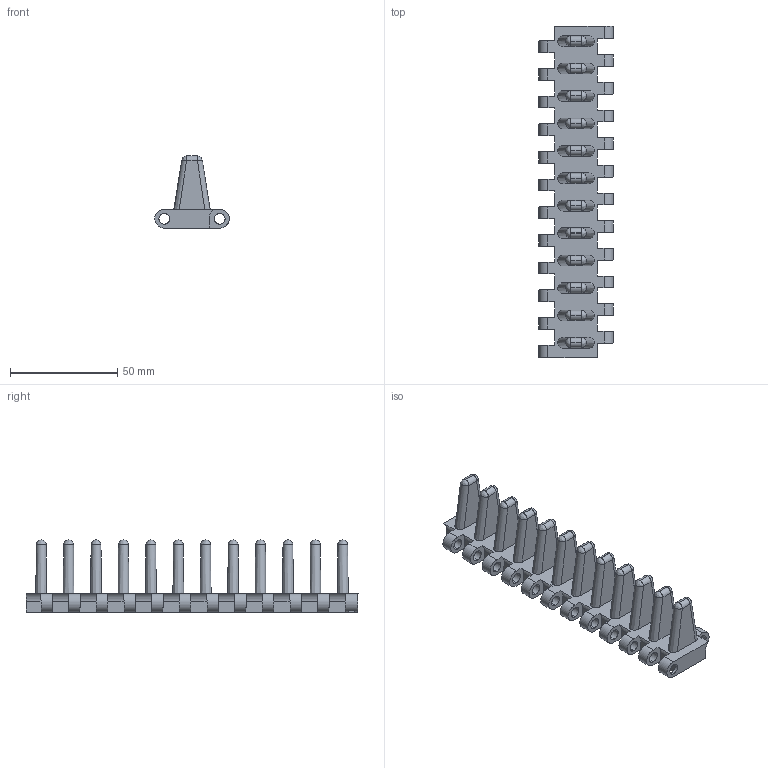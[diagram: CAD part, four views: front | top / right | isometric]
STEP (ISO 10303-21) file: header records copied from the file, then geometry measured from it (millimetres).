
FILE_DESCRIPTION (( 'STEP AP214' ), '1' );
FILE_NAME ('25.4 TARAKLI 25MM.STEP', '2025-01-13T07:10:17', ( '' ), ( '' ), 'SwSTEP 2.0', 'SolidWorks 2021', '' );
FILE_SCHEMA (( 'AUTOMOTIVE_DESIGN' ));
Length unit declared in the file: millimetre
Products named in the file (1): 25.4 TARAKLI 25MM
Bounding box: 34.81 x 154.99 x 33.63 mm (x, y, z)
Volume: 36335 mm3; surface area: 26074.8 mm2
Topology: 1 solids, 1 shells, 399 faces, 1065 edges, 694 vertices
Faces by surface type: plane 216, cylinder 120, bspline 48, cone 15
Entity records: 17315 total; most frequent: CARTESIAN_POINT 8303, ORIENTED_EDGE 2130, DIRECTION 1451, EDGE_CURVE 1065, VERTEX_POINT 694, VECTOR 663, LINE 663, EDGE_LOOP 477
